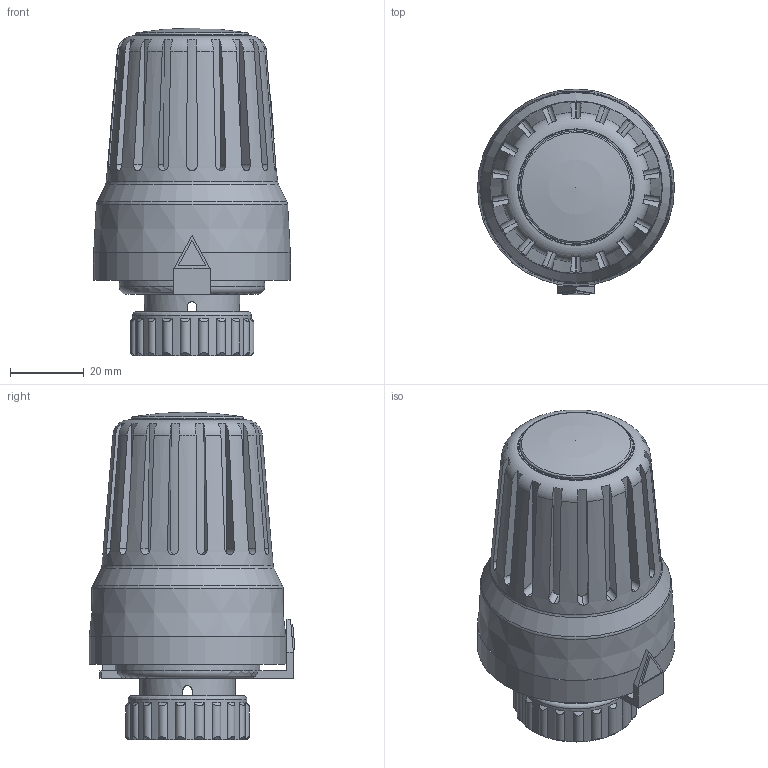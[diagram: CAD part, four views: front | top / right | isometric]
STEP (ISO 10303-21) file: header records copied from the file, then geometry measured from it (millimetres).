
FILE_DESCRIPTION(('STEP AP203'), '1');
FILE_NAME('VT.3000.0.0', '2024-07-24T07:01:25', ('User'), ('Vesta'), 'C3D Converter', 'C3D Toolkit', '');
FILE_SCHEMA(('CONFIG_CONTROL_DESIGN'));
Length unit declared in the file: millimetre
Products named in the file (1): 304555.006.000 СБ
Bounding box: 53.6 x 56.04 x 89.13 mm (x, y, z)
Volume: 122370.3 mm3; surface area: 22651.8 mm2
Topology: 2 solids, 2 shells, 294 faces, 788 edges, 505 vertices
Faces by surface type: plane 134, cylinder 95, cone 55, torus 9, sphere 1
Full cylindrical faces by diameter (mm): 7 x1, 15.3 x1, 16.5 x1, 19.8 x1, 26 x1, 26.6 x1, 28.376 x1, 30.6 x1, 31.4 x1, 32.2 x1, 53.6 x1
Entity records: 14795 total; most frequent: CARTESIAN_POINT 7861, ORIENTED_EDGE 1526, DIRECTION 1325, EDGE_CURVE 763, AXIS2_PLACEMENT_3D 517, VERTEX_POINT 506, EDGE_LOOP 327, ADVANCED_FACE 294
